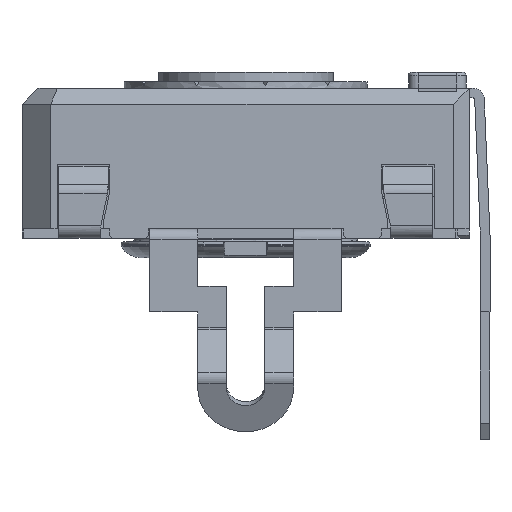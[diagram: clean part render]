
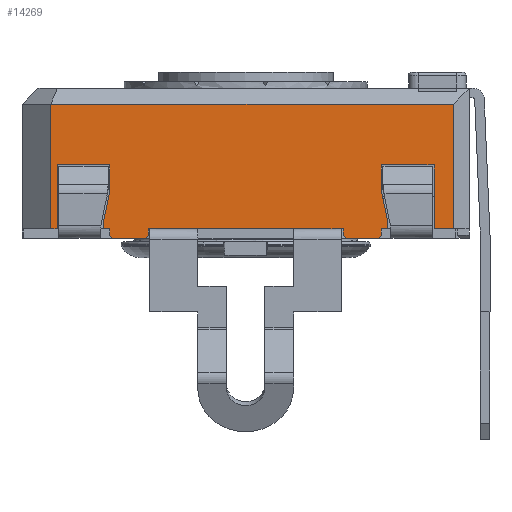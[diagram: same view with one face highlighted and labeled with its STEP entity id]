
A CAD part, left-side view. The second image highlights one B-rep face of the part: STEP entity #14269.
In plain terms, the highlighted planar face has unit normal (-1, 0, 0).
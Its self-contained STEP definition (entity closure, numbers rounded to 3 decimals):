
#1145=FACE_OUTER_BOUND('',#1883,.T.);
#1883=EDGE_LOOP('',(#11479,#11480,#11481,#11482,#11483,#11484,#11485,#11486,
#11487,#11488,#11489,#11490,#11491,#11492,#11493,#11494,#11495,#11496,#11497,
#11498,#11499,#11500,#11501,#11502,#11503,#11504,#11505,#11506));
#2450=LINE('',#20290,#4075);
#2455=LINE('',#20300,#4080);
#2460=LINE('',#20310,#4085);
#2571=LINE('',#20558,#4196);
#3078=LINE('',#22119,#4703);
#3083=LINE('',#22128,#4708);
#3086=LINE('',#22134,#4711);
#3090=LINE('',#22141,#4715);
#3114=LINE('',#22189,#4739);
#3117=LINE('',#22195,#4742);
#3122=LINE('',#22205,#4747);
#3125=LINE('',#22211,#4750);
#3128=LINE('',#22217,#4753);
#3143=LINE('',#22244,#4768);
#3155=LINE('',#22266,#4780);
#3157=LINE('',#22271,#4782);
#3192=LINE('',#22399,#4817);
#3195=LINE('',#22405,#4820);
#3200=LINE('',#22415,#4825);
#3202=LINE('',#22418,#4827);
#3309=LINE('',#22697,#4934);
#3311=LINE('',#22702,#4936);
#3314=LINE('',#22706,#4939);
#3316=LINE('',#22710,#4941);
#3319=LINE('',#22718,#4944);
#3320=LINE('',#22720,#4945);
#3321=LINE('',#22721,#4946);
#3322=LINE('',#22722,#4947);
#4075=VECTOR('',#16281,10.);
#4080=VECTOR('',#16286,10.);
#4085=VECTOR('',#16291,10.);
#4196=VECTOR('',#16502,10.);
#4703=VECTOR('',#17739,10.);
#4708=VECTOR('',#17746,10.);
#4711=VECTOR('',#17751,10.);
#4715=VECTOR('',#17757,10.);
#4739=VECTOR('',#17801,10.);
#4742=VECTOR('',#17806,10.);
#4747=VECTOR('',#17813,10.);
#4750=VECTOR('',#17818,10.);
#4753=VECTOR('',#17823,10.);
#4768=VECTOR('',#17840,10.);
#4780=VECTOR('',#17854,10.);
#4782=VECTOR('',#17858,10.);
#4817=VECTOR('',#17937,10.);
#4820=VECTOR('',#17942,10.);
#4825=VECTOR('',#17949,10.);
#4827=VECTOR('',#17953,10.);
#4934=VECTOR('',#18212,10.);
#4936=VECTOR('',#18216,10.);
#4939=VECTOR('',#18221,10.);
#4941=VECTOR('',#18227,10.);
#4944=VECTOR('',#18238,10.);
#4945=VECTOR('',#18239,10.);
#4946=VECTOR('',#18240,10.);
#4947=VECTOR('',#18241,10.);
#5674=VERTEX_POINT('',#20287);
#5675=VERTEX_POINT('',#20289);
#5679=VERTEX_POINT('',#20297);
#5680=VERTEX_POINT('',#20299);
#5684=VERTEX_POINT('',#20307);
#5685=VERTEX_POINT('',#20309);
#5771=VERTEX_POINT('',#20555);
#5772=VERTEX_POINT('',#20557);
#6208=VERTEX_POINT('',#22116);
#6209=VERTEX_POINT('',#22118);
#6213=VERTEX_POINT('',#22131);
#6216=VERTEX_POINT('',#22139);
#6229=VERTEX_POINT('',#22186);
#6231=VERTEX_POINT('',#22192);
#6235=VERTEX_POINT('',#22202);
#6237=VERTEX_POINT('',#22208);
#6240=VERTEX_POINT('',#22215);
#6251=VERTEX_POINT('',#22242);
#6260=VERTEX_POINT('',#22264);
#6262=VERTEX_POINT('',#22269);
#6286=VERTEX_POINT('',#22402);
#6290=VERTEX_POINT('',#22412);
#6357=VERTEX_POINT('',#22694);
#6358=VERTEX_POINT('',#22696);
#6359=VERTEX_POINT('',#22700);
#6360=VERTEX_POINT('',#22701);
#6361=VERTEX_POINT('',#22717);
#6362=VERTEX_POINT('',#22719);
#7102=EDGE_CURVE('',#5675,#5674,#2450,.T.);
#7107=EDGE_CURVE('',#5680,#5679,#2455,.T.);
#7112=EDGE_CURVE('',#5685,#5684,#2460,.T.);
#7238=EDGE_CURVE('',#5772,#5771,#2571,.T.);
#7917=EDGE_CURVE('',#6209,#6208,#3078,.T.);
#7922=EDGE_CURVE('',#6208,#5685,#3083,.T.);
#7925=EDGE_CURVE('',#5684,#6213,#3086,.T.);
#7929=EDGE_CURVE('',#6216,#6213,#3090,.T.);
#7954=EDGE_CURVE('',#5674,#6229,#3114,.T.);
#7957=EDGE_CURVE('',#6229,#6231,#3117,.T.);
#7962=EDGE_CURVE('',#6231,#6235,#3122,.T.);
#7965=EDGE_CURVE('',#6235,#6237,#3125,.T.);
#7968=EDGE_CURVE('',#6237,#6240,#3128,.T.);
#7983=EDGE_CURVE('',#6240,#6251,#3143,.T.);
#7995=EDGE_CURVE('',#6260,#6251,#3155,.T.);
#7997=EDGE_CURVE('',#6262,#6260,#3157,.T.);
#8044=EDGE_CURVE('',#5772,#6262,#3192,.T.);
#8047=EDGE_CURVE('',#5771,#6286,#3195,.T.);
#8052=EDGE_CURVE('',#6286,#6290,#3200,.T.);
#8054=EDGE_CURVE('',#6290,#6209,#3202,.T.);
#8177=EDGE_CURVE('',#6357,#6358,#3309,.T.);
#8179=EDGE_CURVE('',#6359,#6360,#3311,.T.);
#8182=EDGE_CURVE('',#5675,#6357,#3314,.T.);
#8184=EDGE_CURVE('',#5679,#6360,#3316,.T.);
#8187=EDGE_CURVE('',#6216,#6361,#3319,.T.);
#8188=EDGE_CURVE('',#6362,#6361,#3320,.T.);
#8189=EDGE_CURVE('',#5680,#6362,#3321,.T.);
#8190=EDGE_CURVE('',#6359,#6358,#3322,.T.);
#11479=ORIENTED_EDGE('',*,*,#7922,.T.);
#11480=ORIENTED_EDGE('',*,*,#7112,.T.);
#11481=ORIENTED_EDGE('',*,*,#7925,.T.);
#11482=ORIENTED_EDGE('',*,*,#7929,.F.);
#11483=ORIENTED_EDGE('',*,*,#8187,.T.);
#11484=ORIENTED_EDGE('',*,*,#8188,.F.);
#11485=ORIENTED_EDGE('',*,*,#8189,.F.);
#11486=ORIENTED_EDGE('',*,*,#7107,.T.);
#11487=ORIENTED_EDGE('',*,*,#8184,.T.);
#11488=ORIENTED_EDGE('',*,*,#8179,.F.);
#11489=ORIENTED_EDGE('',*,*,#8190,.T.);
#11490=ORIENTED_EDGE('',*,*,#8177,.F.);
#11491=ORIENTED_EDGE('',*,*,#8182,.F.);
#11492=ORIENTED_EDGE('',*,*,#7102,.T.);
#11493=ORIENTED_EDGE('',*,*,#7954,.T.);
#11494=ORIENTED_EDGE('',*,*,#7957,.T.);
#11495=ORIENTED_EDGE('',*,*,#7962,.T.);
#11496=ORIENTED_EDGE('',*,*,#7965,.T.);
#11497=ORIENTED_EDGE('',*,*,#7968,.T.);
#11498=ORIENTED_EDGE('',*,*,#7983,.T.);
#11499=ORIENTED_EDGE('',*,*,#7995,.F.);
#11500=ORIENTED_EDGE('',*,*,#7997,.F.);
#11501=ORIENTED_EDGE('',*,*,#8044,.F.);
#11502=ORIENTED_EDGE('',*,*,#7238,.T.);
#11503=ORIENTED_EDGE('',*,*,#8047,.T.);
#11504=ORIENTED_EDGE('',*,*,#8052,.T.);
#11505=ORIENTED_EDGE('',*,*,#8054,.T.);
#11506=ORIENTED_EDGE('',*,*,#7917,.T.);
#13334=PLANE('',#15252);
#14269=ADVANCED_FACE('',(#1145),#13334,.T.);
#15252=AXIS2_PLACEMENT_3D('',#22716,#18236,#18237);
#16281=DIRECTION('',(0.,-1.,0.));
#16286=DIRECTION('',(0.,-1.,0.));
#16291=DIRECTION('',(0.,-1.,0.));
#16502=DIRECTION('',(0.,-1.,0.));
#17739=DIRECTION('',(0.,0.208,-0.978));
#17746=DIRECTION('',(0.,0.,-1.));
#17751=DIRECTION('',(0.,0.,-1.));
#17757=DIRECTION('',(0.,0.707,0.707));
#17801=DIRECTION('',(0.,0.,1.));
#17806=DIRECTION('',(0.,0.208,0.978));
#17813=DIRECTION('',(0.,0.,1.));
#17818=DIRECTION('',(0.,-1.,0.));
#17823=DIRECTION('',(0.,0.,-1.));
#17840=DIRECTION('',(0.,-1.,0.));
#17854=DIRECTION('',(0.,0.,-1.));
#17858=DIRECTION('',(0.,-1.,0.));
#17937=DIRECTION('',(0.,0.,1.));
#17942=DIRECTION('',(0.,0.,1.));
#17949=DIRECTION('',(0.,-1.,0.));
#17953=DIRECTION('',(0.,0.,-1.));
#18212=DIRECTION('',(0.,0.707,-0.707));
#18216=DIRECTION('',(0.,0.707,0.707));
#18221=DIRECTION('',(0.,0.,-1.));
#18227=DIRECTION('',(0.,0.,-1.));
#18236=DIRECTION('center_axis',(-1.,0.,0.));
#18237=DIRECTION('ref_axis',(0.,0.,1.));
#18238=DIRECTION('',(0.,-1.,0.));
#18239=DIRECTION('',(0.,0.707,-0.707));
#18240=DIRECTION('',(0.,0.,-1.));
#18241=DIRECTION('',(0.,-1.,0.));
#20287=CARTESIAN_POINT('',(-14.467,-7.348,0.));
#20289=CARTESIAN_POINT('',(-14.467,-7.148,0.));
#20290=CARTESIAN_POINT('',(-14.467,4.102,0.));
#20297=CARTESIAN_POINT('',(-14.467,-5.948,0.));
#20299=CARTESIAN_POINT('',(-14.467,0.152,0.));
#20300=CARTESIAN_POINT('',(-14.467,4.102,0.));
#20307=CARTESIAN_POINT('',(-14.467,1.352,0.));
#20309=CARTESIAN_POINT('',(-14.467,1.552,0.));
#20310=CARTESIAN_POINT('',(-14.467,4.102,0.));
#20555=CARTESIAN_POINT('',(-14.467,3.002,0.));
#20557=CARTESIAN_POINT('',(-14.467,3.202,0.));
#20558=CARTESIAN_POINT('',(-14.467,-2.985,0.));
#22116=CARTESIAN_POINT('',(-14.467,1.552,0.235));
#22118=CARTESIAN_POINT('',(-14.467,1.352,1.176));
#22119=CARTESIAN_POINT('',(-14.467,1.228,1.757));
#22128=CARTESIAN_POINT('',(-14.467,1.552,0.));
#22131=CARTESIAN_POINT('',(-14.467,1.352,-0.2));
#22134=CARTESIAN_POINT('',(-14.467,1.352,0.));
#22139=CARTESIAN_POINT('',(-14.467,1.252,-0.3));
#22141=CARTESIAN_POINT('',(-14.467,-1.436,-2.988));
#22186=CARTESIAN_POINT('',(-14.467,-7.348,0.235));
#22189=CARTESIAN_POINT('',(-14.467,-7.348,0.118));
#22192=CARTESIAN_POINT('',(-14.467,-7.148,1.176));
#22195=CARTESIAN_POINT('',(-14.467,-7.453,-0.254));
#22202=CARTESIAN_POINT('',(-14.467,-7.148,2.));
#22205=CARTESIAN_POINT('',(-14.467,-7.148,0.588));
#22208=CARTESIAN_POINT('',(-14.467,-8.798,2.));
#22211=CARTESIAN_POINT('',(-14.467,-8.523,2.));
#22215=CARTESIAN_POINT('',(-14.467,-8.798,0.));
#22217=CARTESIAN_POINT('',(-14.467,-8.798,0.));
#22242=CARTESIAN_POINT('',(-14.467,-9.398,0.));
#22244=CARTESIAN_POINT('',(-14.467,-9.595,0.));
#22264=CARTESIAN_POINT('',(-14.467,-9.398,3.9));
#22266=CARTESIAN_POINT('',(-14.467,-9.398,0.));
#22269=CARTESIAN_POINT('',(-14.467,3.202,3.9));
#22271=CARTESIAN_POINT('',(-14.467,-6.398,3.9));
#22399=CARTESIAN_POINT('',(-14.467,3.202,0.));
#22402=CARTESIAN_POINT('',(-14.467,3.002,2.));
#22405=CARTESIAN_POINT('',(-14.467,3.002,0.));
#22412=CARTESIAN_POINT('',(-14.467,1.352,2.));
#22415=CARTESIAN_POINT('',(-14.467,-3.448,2.));
#22418=CARTESIAN_POINT('',(-14.467,1.352,1.));
#22694=CARTESIAN_POINT('',(-14.467,-7.148,-0.2));
#22696=CARTESIAN_POINT('',(-14.467,-7.048,-0.3));
#22697=CARTESIAN_POINT('',(-14.467,-7.861,0.513));
#22700=CARTESIAN_POINT('',(-14.467,-6.048,-0.3));
#22701=CARTESIAN_POINT('',(-14.467,-5.948,-0.2));
#22702=CARTESIAN_POINT('',(-14.467,-6.911,-1.163));
#22706=CARTESIAN_POINT('',(-14.467,-7.148,0.));
#22710=CARTESIAN_POINT('',(-14.467,-5.948,0.));
#22716=CARTESIAN_POINT('Origin',(-14.467,-9.898,0.));
#22717=CARTESIAN_POINT('',(-14.467,0.252,-0.3));
#22718=CARTESIAN_POINT('',(-14.467,0.152,-0.3));
#22719=CARTESIAN_POINT('',(-14.467,0.152,-0.2));
#22720=CARTESIAN_POINT('',(-14.467,-2.386,2.338));
#22721=CARTESIAN_POINT('',(-14.467,0.152,0.));
#22722=CARTESIAN_POINT('',(-14.467,-7.148,-0.3));
